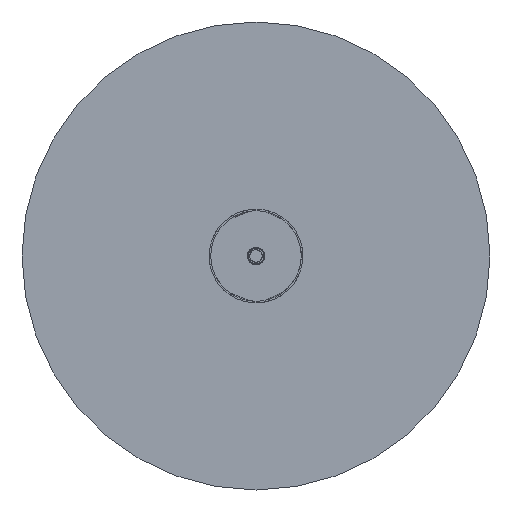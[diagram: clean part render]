
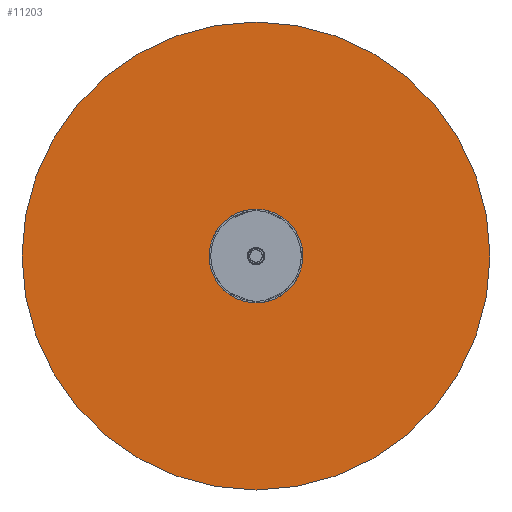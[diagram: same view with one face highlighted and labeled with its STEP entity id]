
A CAD part, left-side view. The second image highlights one B-rep face of the part: STEP entity #11203.
In plain terms, the highlighted planar face has unit normal (-1, 0, 0).
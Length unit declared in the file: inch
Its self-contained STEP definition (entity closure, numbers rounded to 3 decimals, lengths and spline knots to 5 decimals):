
#531 = CIRCLE ( 'NONE', #16464, 5.905 ) ;
#554 = AXIS2_PLACEMENT_3D ( 'NONE', #11151, #8565, #23536 ) ;
#732 = CARTESIAN_POINT ( 'NONE',  ( 2.65591, -2.16673, -0.00401 ) ) ;
#891 = CARTESIAN_POINT ( 'NONE',  ( 2.65591, 0.10677, 0.04394 ) ) ;
#1666 = CARTESIAN_POINT ( 'NONE',  ( 2.65591, -0.44962, -0.53642 ) ) ;
#2609 = AXIS2_PLACEMENT_3D ( 'NONE', #31159, #28433, #6549 ) ;
#3453 = CARTESIAN_POINT ( 'NONE',  ( 2.65591, -1.05395, 1.15672 ) ) ;
#4342 = CARTESIAN_POINT ( 'NONE',  ( 2.65591, 0.10677, 0.04394 ) ) ;
#5395 = EDGE_CURVE ( 'NONE', #15262, #21771, #30849, .T. ) ;
#6472 = DIRECTION ( 'NONE',  ( 0., 0., -1. ) ) ;
#6549 = DIRECTION ( 'NONE',  ( 0., 0., -1. ) ) ;
#6711 = FACE_OUTER_BOUND ( 'NONE', #19560, .T. ) ;
#7893 = EDGE_CURVE ( 'NONE', #16616, #9152, #30509, .T. ) ;
#8565 = DIRECTION ( 'NONE',  ( 1., 0., 0. ) ) ;
#9046 = DIRECTION ( 'NONE',  ( 1., 0., 0. ) ) ;
#9152 = VERTEX_POINT ( 'NONE', #4342 ) ;
#9983 = EDGE_CURVE ( 'NONE', #21771, #15262, #531, .T. ) ;
#11151 = CARTESIAN_POINT ( 'NONE',  ( 2.65591, -0.44962, -0.53642 ) ) ;
#11203 = ADVANCED_FACE ( 'NONE', ( #21370, #6711 ), #13469, .F. ) ;
#13332 = ORIENTED_EDGE ( 'NONE', *, *, #17160, .F. ) ;
#13469 = PLANE ( 'NONE',  #2609 ) ;
#13680 = ORIENTED_EDGE ( 'NONE', *, *, #5395, .F. ) ;
#14519 = CARTESIAN_POINT ( 'NONE',  ( 2.65591, -0.44962, -0.53642 ) ) ;
#15262 = VERTEX_POINT ( 'NONE', #28482 ) ;
#16464 = AXIS2_PLACEMENT_3D ( 'NONE', #1666, #9046, #6472 ) ;
#16616 = VERTEX_POINT ( 'NONE', #25361 ) ;
#16971 = ORIENTED_EDGE ( 'NONE', *, *, #7893, .F. ) ;
#17160 = EDGE_CURVE ( 'NONE', #9152, #16616, #18513, .T. ) ;
#18098 = CARTESIAN_POINT ( 'NONE',  ( 2.65591, -1.00601, -1.11679 ) ) ;
#18513 = CIRCLE ( 'NONE', #27252, 0.80398 ) ;
#19560 = EDGE_LOOP ( 'NONE', ( #13680, #30734 ) ) ;
#21370 = FACE_BOUND ( 'NONE', #26622, .T. ) ;
#21771 = VERTEX_POINT ( 'NONE', #27009 ) ;
#23536 = DIRECTION ( 'NONE',  ( 0., 0., -1. ) ) ;
#24806 = DIRECTION ( 'NONE',  ( 0., 0., -1. ) ) ;
#25361 = CARTESIAN_POINT ( 'NONE',  ( 2.65591, -1.00601, -1.11679 ) ) ;
#26622 = EDGE_LOOP ( 'NONE', ( #16971, #13332 ) ) ;
#27009 = CARTESIAN_POINT ( 'NONE',  ( 2.65591, -0.44962, 5.36858 ) ) ;
#27252 = AXIS2_PLACEMENT_3D ( 'NONE', #14519, #29153, #24806 ) ;
#28433 = DIRECTION ( 'NONE',  ( 1., 0., 0. ) ) ;
#28482 = CARTESIAN_POINT ( 'NONE',  ( 2.65591, -0.44962, -6.44142 ) ) ;
#29153 = DIRECTION ( 'NONE',  ( -1., 0., 0. ) ) ;
#30509 =( BOUNDED_CURVE ( )  B_SPLINE_CURVE ( 3, ( #18098, #732, #3453, #891 ),
 .UNSPECIFIED., .F., .T. ) 
 B_SPLINE_CURVE_WITH_KNOTS ( ( 4, 4 ),
 ( 0., 0.06383 ),
 .UNSPECIFIED. ) 
 CURVE ( )  GEOMETRIC_REPRESENTATION_ITEM ( )  RATIONAL_B_SPLINE_CURVE ( ( 0.888, 0.296, 0.296, 0.888 ) ) 
 REPRESENTATION_ITEM ( '' )  );
#30734 = ORIENTED_EDGE ( 'NONE', *, *, #9983, .F. ) ;
#30849 = CIRCLE ( 'NONE', #554, 5.905 ) ;
#31159 = CARTESIAN_POINT ( 'NONE',  ( 2.65591, -0.44962, -0.53642 ) ) ;
